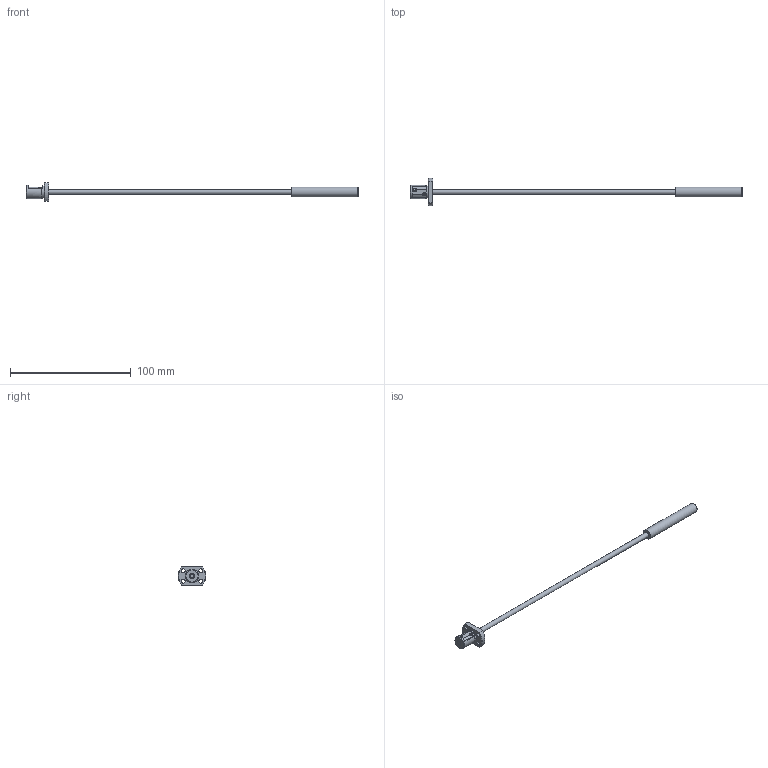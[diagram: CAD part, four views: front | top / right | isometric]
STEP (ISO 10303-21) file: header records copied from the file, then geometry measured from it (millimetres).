
FILE_DESCRIPTION( ( 'STEP AP203' ), '1' );
FILE_NAME( 'e:/temp/worker_94/temp/exporttempdir_5292_1219_NeCh6/format_0/SRT0402-216R275C10A0X(0None).stp', '2021-10-19T05:19:39', ( 'License CC BY-ND 4.0' ), ( 'CADENAS' ), ' ', 'PARTsolutions', ' ' );
FILE_SCHEMA( ( 'CONFIG_CONTROL_DESIGN' ) );
Length unit declared in the file: millimetre
Products named in the file (3): SRT0402-216R275C10A0X(0None); _SRT0402-216R275ACt10NoneShaft; _SRT0402Nut
Assembly tree (2 placements, depth 2):
  SRT0402-216R275C10A0X(0None)
    _SRT0402-216R275ACt10NoneShaft
    _SRT0402Nut
Bounding box: 275 x 22.93 x 15 mm (x, y, z)
Volume: 7824.7 mm3; surface area: 6020.4 mm2
Topology: 2 solids, 2 shells, 50 faces, 130 edges, 86 vertices
Faces by surface type: plane 24, cylinder 15, cone 11
Full cylindrical faces by diameter (mm): 1 x2, 3.4 x4, 4 x2, 8.2 x1, 10.6 x1, 11 x1
Entity records: 1540 total; most frequent: CARTESIAN_POINT 319, DIRECTION 238, ORIENTED_EDGE 202, AXIS2_PLACEMENT_3D 102, EDGE_CURVE 101, EDGE_LOOP 80, VERTEX_POINT 75, FACE_OUTER_BOUND 61
